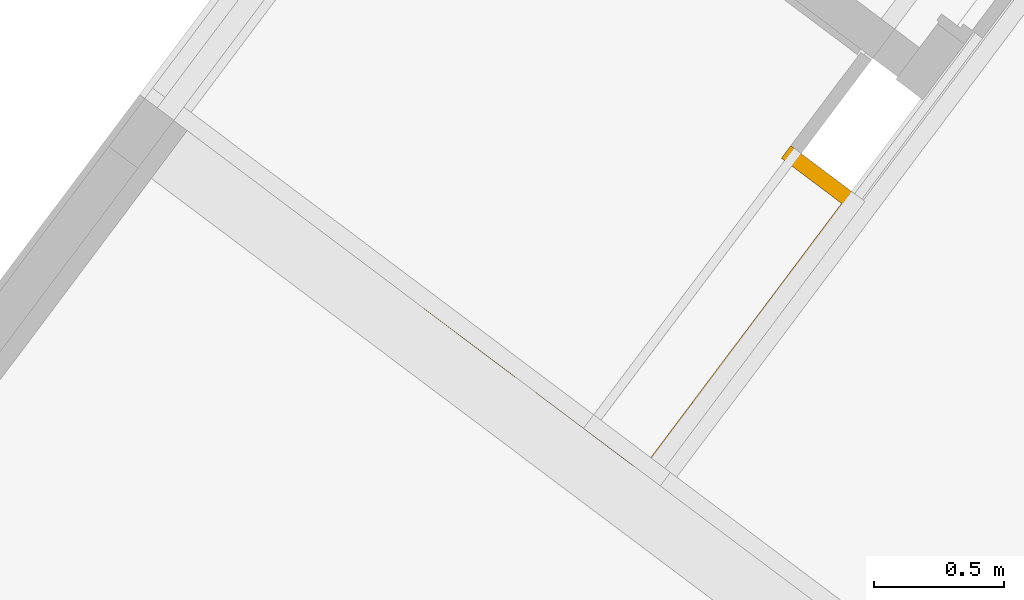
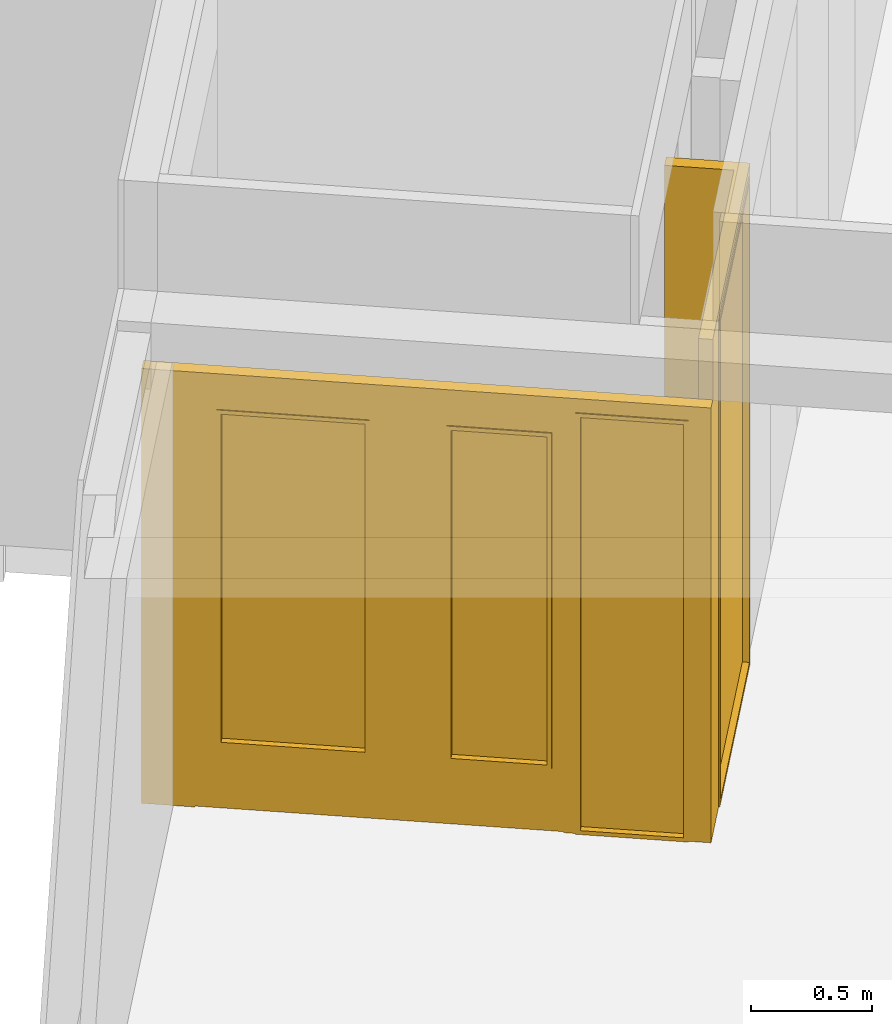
# One storey, part 222 of 243: 1 door.
"""IFC2X3 building model written with IfcOpenShell, lengths in metres."""

import ifcopenshell
import ifcopenshell.guid

model = None  # the IFC model being written
_history = None  # IfcOwnerHistory: only IFC2X3 demands one
_inside = {}  # id of a spatial element -> (the spatial element, [elements in it])
_under = {}  # id of a project, library or spatial element -> (it, [spatial elements below it])
_declared = {}  # id of a project -> (the project, [libraries it declares])
_typed = {}  # id of a type object -> (the type object, [elements of that type])
_made_of = {}  # id of a material, layer set ... -> (it, [elements and type objects made of it])


def new_model(schema):
    """Start an empty IFC model of exactly this schema.

    Asked for "IFC4X3", IfcOpenShell would pick the latest addendum, in which some entities
    have other attributes; the version numbers below select the first issue.
    IFC2X3 requires an IfcOwnerHistory on every rooted entity: one is made here for all.
    """
    global model, _history
    if schema == "IFC4X3":
        model = ifcopenshell.file(schema_version=(4, 3, 0, 0))
    else:
        model = ifcopenshell.file(schema=schema)
    _inside.clear()
    _under.clear()
    _declared.clear()
    _typed.clear()
    _made_of.clear()
    _history = None
    if model.schema == "IFC2X3":
        org = make("IfcOrganization", Name="unknown")
        user = make(
            "IfcPersonAndOrganization",
            ThePerson=make("IfcPerson", FamilyName="unknown"),
            TheOrganization=org,
        )
        app = make(
            "IfcApplication",
            ApplicationDeveloper=org,
            Version="unknown",
            ApplicationFullName="unknown",
            ApplicationIdentifier="unknown",
        )
        _history = make(
            "IfcOwnerHistory",
            OwningUser=user,
            OwningApplication=app,
            ChangeAction="ADDED",
            CreationDate=0,
        )
    return model


def make(cls, **values):
    """One entity of the class cls with the attributes given. An attribute that is None is left unset."""
    return model.create_entity(
        cls, **{name: value for name, value in values.items() if value is not None}
    )


def entity(cls, *values):
    """Any entity or typed value of the class cls, its attributes in the order of the schema. None: left unset."""
    e = model.create_entity(cls)
    for i, value in enumerate(values):
        if value is not None:
            e[i] = value
    return e


def rooted(cls, **values):
    """An entity with a GlobalId (a new one), such as an element, a storey or a relation."""
    return make(cls, GlobalId=ifcopenshell.guid.new(), OwnerHistory=_history, **values)


def si_unit(unit_type, name, prefix=None):
    """IfcSIUnit, for example si_unit("LENGTHUNIT", "METRE", prefix="MILLI")."""
    return make("IfcSIUnit", UnitType=unit_type, Prefix=prefix, Name=name)


def converted_unit(unit_type, name, factor, base, dimensions=None, offset=None):
    """IfcConversionBasedUnit, such as the inch: factor (a typed value) times the base unit."""
    return make(
        "IfcConversionBasedUnit"
        if offset is None
        else "IfcConversionBasedUnitWithOffset",
        ConversionOffset=offset,
        Dimensions=None
        if dimensions is None
        else entity("IfcDimensionalExponents", *dimensions),
        UnitType=unit_type,
        Name=name,
        ConversionFactor=make(
            "IfcMeasureWithUnit", ValueComponent=factor, UnitComponent=base
        ),
    )


def derived_unit(unit_type, elements):
    """IfcDerivedUnit: a product of units, each with its exponent."""
    return make(
        "IfcDerivedUnit",
        Elements=[
            make("IfcDerivedUnitElement", Unit=unit, Exponent=power)
            for unit, power in elements
        ],
        UnitType=unit_type,
    )


def assignment(units):
    """IfcUnitAssignment: the units of a project."""
    return None if units is None else make("IfcUnitAssignment", Units=units)


def point(xyz):
    """IfcCartesianPoint."""
    return None if xyz is None else make("IfcCartesianPoint", Coordinates=xyz)


def direction(xyz):
    """IfcDirection."""
    return None if xyz is None else make("IfcDirection", DirectionRatios=xyz)


def frame(location, z_axis=None, x_axis=None):
    """IfcAxis2Placement3D, a coordinate frame: its origin and axes. An axis left out is left unset."""
    return make(
        "IfcAxis2Placement3D",
        Location=point(location),
        Axis=direction(z_axis),
        RefDirection=direction(x_axis),
    )


def origin():
    """The frame at (0, 0, 0) with its axes left unset."""
    return frame((0.0, 0.0, 0.0))


def place(relative_to, where):
    """IfcLocalPlacement: puts the frame where relative to a parent placement (None: the world)."""
    return make(
        "IfcLocalPlacement", PlacementRelTo=relative_to, RelativePlacement=where
    )


def context(
    kind, dimensions, precision=None, world=None, true_north=None, identifier=None
):
    """IfcGeometricRepresentationContext, for example the 3D "Model" context."""
    return make(
        "IfcGeometricRepresentationContext",
        ContextIdentifier=identifier,
        ContextType=kind,
        CoordinateSpaceDimension=dimensions,
        Precision=precision,
        WorldCoordinateSystem=world,
        TrueNorth=true_north,
    )


def subcontext(parent, identifier, kind, view, scale=None):
    """IfcGeometricRepresentationSubContext, for example "Body" below "Model"."""
    return make(
        "IfcGeometricRepresentationSubContext",
        ContextIdentifier=identifier,
        ContextType=kind,
        ParentContext=parent,
        TargetScale=scale,
        TargetView=view,
    )


def project(units=None, contexts=None):
    """IfcProject with its units and contexts."""
    return rooted(
        "IfcProject",
        Name="project",
        RepresentationContexts=contexts,
        UnitsInContext=assignment(units),
    )


def spatial(cls, under=None, at=None, **own):
    """A site, building, storey or space (cls), placed at a placement, below another one or the project."""
    s = rooted(cls, ObjectPlacement=at, **own)
    if under is not None:
        _under.setdefault(under.id(), (under, []))[1].append(s)
    return s


def faces_of(points, faces, orient=None, outer=None):
    """IfcFace entities. A face is a list of loops; a loop is a list of indices into points, from 0.

    orient and outer hold one flag for each loop. By default every Orientation is true, the
    first loop of a face is its IfcFaceOuterBound and the others are IfcFaceBound.
    """
    made = []
    for i, loops in enumerate(faces):
        bounds = []
        for j, loop in enumerate(loops):
            is_outer = j == 0 if outer is None else outer[i][j]
            bounds.append(
                make(
                    "IfcFaceOuterBound" if is_outer else "IfcFaceBound",
                    Bound=make("IfcPolyLoop", Polygon=[points[k] for k in loop]),
                    Orientation=True if orient is None else orient[i][j],
                )
            )
        made.append(make("IfcFace", Bounds=bounds))
    return made


def faceted_brep(points, faces, orient=None, outer=None, voids=None):
    """IfcFacetedBrep: a solid bounded by flat faces; with voids (closed shells), ...WithVoids."""
    shared = [point(p) for p in points]
    hull = make("IfcClosedShell", CfsFaces=faces_of(shared, faces, orient, outer))
    if voids is None:
        return make("IfcFacetedBrep", Outer=hull)
    return make(
        "IfcFacetedBrepWithVoids",
        Outer=hull,
        Voids=[
            make(cls, CfsFaces=faces_of(shared, fs, o, b)) for cls, fs, o, b in voids
        ],
    )


def shape(context_of_items, identifier, shape_type, items):
    """IfcShapeRepresentation: the items that make up one representation, for example the "Body"."""
    return make(
        "IfcShapeRepresentation",
        ContextOfItems=context_of_items,
        RepresentationIdentifier=identifier,
        RepresentationType=shape_type,
        Items=items,
    )


def source(mapping_origin, context_of_items, identifier, shape_type, items):
    """IfcRepresentationMap: a shape defined once, which mapped items show again and again."""
    return make(
        "IfcRepresentationMap",
        MappingOrigin=mapping_origin,
        MappedRepresentation=shape(context_of_items, identifier, shape_type, items),
    )


def transform(
    local_origin,
    x_axis=None,
    y_axis=None,
    z_axis=None,
    scale=None,
    scale2=None,
    scale3=None,
    uniform=True,
):
    """IfcCartesianTransformationOperator3D, or its non-uniform kind. x_axis, y_axis, z_axis: its Axis1, 2, 3."""
    if uniform:
        return make(
            "IfcCartesianTransformationOperator3D",
            Axis1=direction(x_axis),
            Axis2=direction(y_axis),
            LocalOrigin=point(local_origin),
            Scale=scale,
            Axis3=direction(z_axis),
        )
    return make(
        "IfcCartesianTransformationOperator3DnonUniform",
        Axis1=direction(x_axis),
        Axis2=direction(y_axis),
        LocalOrigin=point(local_origin),
        Scale=scale,
        Axis3=direction(z_axis),
        Scale2=scale2,
        Scale3=scale3,
    )


def mapped(mapping_source, mapping_target):
    """IfcMappedItem: shows the shape of a source again, moved by a transform."""
    return make(
        "IfcMappedItem", MappingSource=mapping_source, MappingTarget=mapping_target
    )


def material(Name=None, Category=None):
    """IfcMaterial."""
    return make("IfcMaterial", Name=Name, Category=Category)


def material_list(materials):
    """IfcMaterialList."""
    return make("IfcMaterialList", Materials=materials)


def made_of(thing, what):
    """Note that an element or type object is made of a material, layer set ...; save() writes the relation."""
    if what is not None:
        _made_of.setdefault(what.id(), (what, []))[1].append(thing)
    return thing


def type_object(cls, material=None, **own):
    """A type object (cls), such as IfcWallType, which elements share."""
    return made_of(rooted(cls, **own), material)


def type_shapes(of_type, sources):
    """Give a type object the sources (RepresentationMaps) that its elements show as mapped items."""
    of_type.RepresentationMaps = sources


def element(
    cls,
    number,
    at=None,
    inside=None,
    cuts=None,
    type_object=None,
    material=None,
    context=None,
    identifier="Body",
    shape_type=None,
    held_by="IfcProductDefinitionShape",
    body=None,
    shapes=None,
    **own,
):
    """One element of the class cls, such as IfcWall. Its Tag is "e" and its number.

    at: its placement. inside: the storey or other place that contains it. cuts: it is an
    opening in that element (IfcRelVoidsElement). A single representation is given by context,
    identifier, shape_type and body (its items); several are given by shapes. held_by: the class
    of the entity that holds the representations. save() writes the other relations.
    """
    e = rooted(cls, Tag="e%d" % number, ObjectPlacement=at, **own)
    if body is not None:
        shapes = [shape(context, identifier, shape_type, body)]
    if shapes is not None:
        e.Representation = make(held_by, Representations=shapes)
    if inside is not None:
        _inside.setdefault(inside.id(), (inside, []))[1].append(e)
    if cuts is not None:
        rooted(
            "IfcRelVoidsElement", RelatingBuildingElement=cuts, RelatedOpeningElement=e
        )
    if type_object is not None:
        _typed.setdefault(type_object.id(), (type_object, []))[1].append(e)
    return made_of(e, material)


def aggregate(whole, parts):
    """IfcRelAggregates: a whole, such as a stair, and the parts it consists of."""
    return rooted("IfcRelAggregates", RelatingObject=whole, RelatedObjects=parts)


def save(model, path):
    """Write the relations noted so far, then the file.

    IfcRelAggregates (storeys below a building ...), IfcRelContainedInSpatialStructure (elements
    in a storey), IfcRelDefinesByType, IfcRelAssociatesMaterial and IfcRelDeclares: one each for
    every whole, place, type object, material and project.
    """
    for whole, parts in _under.values():
        aggregate(whole, parts)
    for where, things in _inside.values():
        rooted(
            "IfcRelContainedInSpatialStructure",
            RelatedElements=things,
            RelatingStructure=where,
        )
    for kind, things in _typed.values():
        rooted("IfcRelDefinesByType", RelatedObjects=things, RelatingType=kind)
    for what, things in _made_of.values():
        rooted("IfcRelAssociatesMaterial", RelatedObjects=things, RelatingMaterial=what)
    for by, libraries in _declared.values():
        rooted("IfcRelDeclares", RelatingContext=by, RelatedDefinitions=libraries)
    model.write(path)


model = new_model("IFC2X3")

# Units and contexts
model_context = context("Model", 3, precision=1e-05, world=origin(), true_north=direction((6.123031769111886e-17, 1.0)))
body_context = subcontext(model_context, "Body", "Model", "MODEL_VIEW")
ifc_project = project(units=[si_unit("LENGTHUNIT", "METRE"), si_unit("AREAUNIT", "SQUARE_METRE"), si_unit("VOLUMEUNIT", "CUBIC_METRE"), converted_unit("PLANEANGLEUNIT", "DEGREE", entity("IfcRatioMeasure", 0.017453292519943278), si_unit("PLANEANGLEUNIT", "RADIAN"), dimensions=[0, 0, 0, 0, 0, 0, 0]), si_unit("MASSUNIT", "GRAM", prefix="KILO"), derived_unit("MASSDENSITYUNIT", [(si_unit("MASSUNIT", "GRAM", prefix="KILO"), 1), (si_unit("LENGTHUNIT", "METRE"), -3)]), derived_unit("IONCONCENTRATIONUNIT", [(si_unit("MASSUNIT", "GRAM", prefix="KILO"), 1), (si_unit("LENGTHUNIT", "METRE"), -3)]), derived_unit("MOMENTOFINERTIAUNIT", [(si_unit("LENGTHUNIT", "METRE"), 4)]), si_unit("TIMEUNIT", "SECOND"), si_unit("FREQUENCYUNIT", "HERTZ"), si_unit("THERMODYNAMICTEMPERATUREUNIT", "DEGREE_CELSIUS"), derived_unit("THERMALTRANSMITTANCEUNIT", [(si_unit("MASSUNIT", "GRAM", prefix="KILO"), 1), (si_unit("THERMODYNAMICTEMPERATUREUNIT", "KELVIN"), -1), (si_unit("TIMEUNIT", "SECOND"), -3)]), derived_unit("THERMALCONDUCTANCEUNIT", [(si_unit("MASSUNIT", "GRAM", prefix="KILO"), 1), (si_unit("THERMODYNAMICTEMPERATUREUNIT", "KELVIN"), -1), (si_unit("TIMEUNIT", "SECOND"), -3), (si_unit("LENGTHUNIT", "METRE"), 1)]), derived_unit("VOLUMETRICFLOWRATEUNIT", [(si_unit("LENGTHUNIT", "METRE"), 3), (si_unit("TIMEUNIT", "SECOND"), -1)]), derived_unit("MASSFLOWRATEUNIT", [(si_unit("MASSUNIT", "GRAM", prefix="KILO"), 1), (si_unit("TIMEUNIT", "SECOND"), -1)]), derived_unit("ROTATIONALFREQUENCYUNIT", [(si_unit("TIMEUNIT", "SECOND"), -1)]), si_unit("ELECTRICCURRENTUNIT", "AMPERE"), si_unit("ELECTRICVOLTAGEUNIT", "VOLT"), si_unit("POWERUNIT", "WATT"), si_unit("FORCEUNIT", "NEWTON", prefix="KILO"), si_unit("ILLUMINANCEUNIT", "LUX"), si_unit("LUMINOUSFLUXUNIT", "LUMEN"), si_unit("LUMINOUSINTENSITYUNIT", "CANDELA"), derived_unit("USERDEFINED", [(si_unit("MASSUNIT", "GRAM", prefix="KILO"), -1), (si_unit("LENGTHUNIT", "METRE"), -2), (si_unit("TIMEUNIT", "SECOND"), 3), (si_unit("LUMINOUSFLUXUNIT", "LUMEN"), 1)]), derived_unit("USERDEFINED", [(si_unit("MASSUNIT", "GRAM", prefix="KILO"), 1), (si_unit("TIMEUNIT", "SECOND"), -3), (si_unit("LENGTHUNIT", "METRE"), 3), (si_unit("ELECTRICCURRENTUNIT", "AMPERE"), -2)]), derived_unit("SOUNDPOWERUNIT", [(si_unit("MASSUNIT", "GRAM", prefix="KILO"), 1), (si_unit("TIMEUNIT", "SECOND"), -3), (si_unit("LENGTHUNIT", "METRE"), 2)]), derived_unit("SOUNDPRESSUREUNIT", [(si_unit("MASSUNIT", "GRAM", prefix="KILO"), 1), (si_unit("LENGTHUNIT", "METRE"), -1), (si_unit("TIMEUNIT", "SECOND"), -2)]), derived_unit("LINEARVELOCITYUNIT", [(si_unit("LENGTHUNIT", "METRE"), 1), (si_unit("TIMEUNIT", "SECOND"), -1)]), si_unit("PRESSUREUNIT", "PASCAL"), derived_unit("USERDEFINED", [(si_unit("MASSUNIT", "GRAM", prefix="KILO"), 1), (si_unit("LENGTHUNIT", "METRE"), -2), (si_unit("TIMEUNIT", "SECOND"), -2)]), derived_unit("LINEARFORCEUNIT", [(si_unit("MASSUNIT", "GRAM", prefix="KILO"), 1), (si_unit("TIMEUNIT", "SECOND"), -2)]), derived_unit("PLANARFORCEUNIT", [(si_unit("MASSUNIT", "GRAM", prefix="KILO"), 1), (si_unit("LENGTHUNIT", "METRE"), -1), (si_unit("TIMEUNIT", "SECOND"), -2)]), derived_unit("SPECIFICHEATCAPACITYUNIT", [(si_unit("THERMODYNAMICTEMPERATUREUNIT", "KELVIN"), -1), (si_unit("LENGTHUNIT", "METRE"), 2), (si_unit("TIMEUNIT", "SECOND"), -2)]), derived_unit("HEATINGVALUEUNIT", [(si_unit("LENGTHUNIT", "METRE"), 2), (si_unit("TIMEUNIT", "SECOND"), -2)]), derived_unit("VAPORPERMEABILITYUNIT", [(si_unit("LENGTHUNIT", "METRE"), -1), (si_unit("TIMEUNIT", "SECOND"), 1)]), derived_unit("DYNAMICVISCOSITYUNIT", [(si_unit("MASSUNIT", "GRAM", prefix="KILO"), 1), (si_unit("TIMEUNIT", "SECOND"), -1), (si_unit("LENGTHUNIT", "METRE"), -1)]), derived_unit("THERMALEXPANSIONCOEFFICIENTUNIT", [(si_unit("THERMODYNAMICTEMPERATUREUNIT", "KELVIN"), -1)]), derived_unit("MODULUSOFELASTICITYUNIT", [(si_unit("MASSUNIT", "GRAM", prefix="KILO"), 1), (si_unit("LENGTHUNIT", "METRE"), -1), (si_unit("TIMEUNIT", "SECOND"), -2)]), derived_unit("ISOTHERMALMOISTURECAPACITYUNIT", [(si_unit("LENGTHUNIT", "METRE"), 3), (si_unit("MASSUNIT", "GRAM", prefix="KILO"), -1)]), derived_unit("MOISTUREDIFFUSIVITYUNIT", [(si_unit("TIMEUNIT", "SECOND"), -1), (si_unit("LENGTHUNIT", "METRE"), 2)])], contexts=[model_context])

# Site, building, storey
site_placement = place(None, frame((0.0, 0.0, 235.0), z_axis=(0.0, 0.0, 1.0), x_axis=(-0.7996477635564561, 0.6004693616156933, 0.0)))
site = spatial("IfcSite", under=ifc_project, at=site_placement, Name="Default", CompositionType="ELEMENT")
building_placement = place(site_placement, origin())
building = spatial("IfcBuilding", under=site, at=building_placement, CompositionType="ELEMENT")
storey_placement = place(building_placement, origin())
storey = spatial("IfcBuildingStorey", under=building, at=storey_placement, Name="P0- Escola", CompositionType="ELEMENT", Elevation=0.0)

# Door
ifc_material_1 = material(Name="_Fusta massisa- T1-  REV- PAV")
ifc_material_2 = material(Name="_Vidre")
ifc_material_list = material_list([ifc_material_1, ifc_material_2])
door_style = type_object("IfcDoorStyle", Name="FUS- Cancela- C3:FUS- Cancela- C3", ConstructionType="NOTDEFINED", OperationType="NOTDEFINED", ParameterTakesPrecedence=False, Sizeable=False, material=ifc_material_list)
shared_shape = source(origin(), body_context, "Body", "Brep", [
    faceted_brep([(-2.2199999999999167, -1.2849999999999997, 2.4449999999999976), (-2.21999999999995, -1.2849999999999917, 0.02000000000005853), (-2.2499999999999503, -1.2849999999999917, 0.020000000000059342), (-2.2499999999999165, -1.2849999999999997, 2.4449999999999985), (-2.249999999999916, -1.3050000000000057, 2.465000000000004), (-2.24999999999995, -1.304999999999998, 0.0), (-2.219999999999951, -1.3049999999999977, 0.0), (-2.2199999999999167, -1.3050000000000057, 2.465000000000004), (-2.219999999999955, -0.2800000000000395, 0.02000000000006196), (-2.2499999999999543, -0.2800000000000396, 0.020000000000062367), (-2.249999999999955, -0.26000000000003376, 0.0), (-2.2199999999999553, -0.26000000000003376, 0.0), (-2.219999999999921, -0.2800000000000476, 2.445000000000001), (-2.249999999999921, -0.2800000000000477, 2.445000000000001), (-2.249999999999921, -0.260000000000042, 2.4650000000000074), (-2.219999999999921, -0.2600000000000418, 2.4650000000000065)], [[[0, 1, 2, 3]], [[4, 5, 6, 7]], [[1, 8, 9, 2]], [[5, 10, 11, 6]], [[8, 12, 13, 9]], [[10, 14, 15, 11]], [[12, 0, 3, 13]], [[7, 6, 11, 15], [1, 0, 12, 8]], [[14, 4, 7, 15]], [[3, 2, 9, 13], [5, 4, 14, 10]]], outer=[[True], [True], [True], [True], [True], [True], [True], [True, False], [True], [False, True]]),
    faceted_brep([(-2.2199999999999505, -1.3049999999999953, 2.4650000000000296), (-2.1999999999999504, -1.3049999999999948, 2.4650000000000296), (-2.1999999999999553, -0.26000000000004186, 2.465000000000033), (-2.2199999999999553, -0.260000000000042, 2.465000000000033), (-2.2199999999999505, -1.304999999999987, 0.0), (-2.2199999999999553, -0.260000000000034, 0.0), (-2.1999999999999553, -0.26000000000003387, 0.0), (-2.1999999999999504, -1.304999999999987, 0.0)], [[[0, 1, 2, 3]], [[4, 5, 6, 7]], [[3, 5, 4, 0]], [[2, 6, 5, 3]], [[1, 7, 6, 2]], [[0, 4, 7, 1]]]),
    faceted_brep([(-2.184999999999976, -0.06000000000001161, 2.5050000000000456), (-2.1849999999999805, -0.06000000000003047, 0.0), (-2.2449999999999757, -0.06000000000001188, 0.0), (-2.244999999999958, -0.06000000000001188, 2.5050000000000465), (-2.2449999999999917, -0.30500000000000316, 0.0), (-2.2449999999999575, -0.3050000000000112, 2.4650000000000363), (-2.244999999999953, -1.3050000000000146, 2.4650000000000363), (-2.2449999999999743, -1.3050000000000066, 0.0), (-2.244999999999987, -1.3450000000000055, 0.0), (-2.2449999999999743, -1.3450000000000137, 2.5050000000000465), (-2.18499999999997, -1.2850000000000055, 0.0), (-1.8949999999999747, -1.2850000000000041, 0.0), (-1.8949999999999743, -1.345000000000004, 0.0), (-2.2009999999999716, -1.3050000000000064, 0.0), (-2.200999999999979, -0.30500000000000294, 0.0), (-2.1849999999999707, -1.2850000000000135, 2.5050000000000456), (-2.184999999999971, -1.2850000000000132, 2.445000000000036), (-2.184999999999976, -0.3250000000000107, 2.445000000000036), (-2.184999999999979, -0.32500000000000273, 0.020000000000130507), (-2.18499999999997, -1.2850000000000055, 0.02000000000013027), (-1.8949999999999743, -1.345000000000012, 2.5050000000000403), (-2.2009999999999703, -1.3050000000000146, 2.465000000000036), (-2.200999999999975, -0.30500000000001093, 2.465000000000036), (-2.200999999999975, -0.32500000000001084, 2.445000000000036), (-2.2009999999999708, -1.2850000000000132, 2.445000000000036), (-2.2010000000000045, -1.2850000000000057, 0.020000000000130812), (-2.201000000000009, -0.32500000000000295, 0.020000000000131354), (-1.8949999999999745, -1.2850000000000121, 2.504999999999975)], [[[0, 1, 2, 3]], [[4, 5, 6, 7, 8, 9, 3, 2]], [[4, 2, 1, 10, 11, 12, 8, 7, 13, 14]], [[0, 15, 16, 17, 18, 19, 10, 1]], [[9, 8, 12, 20]], [[7, 6, 21, 13]], [[22, 5, 4, 14]], [[22, 14, 13, 21], [23, 24, 25, 26]], [[23, 26, 18, 17]], [[25, 19, 18, 26]], [[11, 10, 19, 25, 24, 16, 15, 27]], [[20, 12, 11, 27]], [[3, 9, 20, 27, 15, 0]], [[5, 22, 21, 6]], [[17, 16, 24, 23]]]),
    faceted_brep([(-1.6999999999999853, -0.02400000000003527, 2.1100000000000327), (-1.6999999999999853, 0.005999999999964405, 2.110000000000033), (-1.699999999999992, 0.005999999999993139, 0.01999999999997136), (-1.699999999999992, -0.024000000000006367, 0.01999999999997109), (-1.6799999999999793, 0.005999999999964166, 2.1300000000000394), (-1.6799999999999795, -0.02400000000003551, 2.1300000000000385), (-1.6799999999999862, -0.024000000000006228, 0.0), (-1.6799999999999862, 0.005999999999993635, 0.0), (-2.130999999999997, 0.005999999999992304, 0.019999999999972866), (-2.130999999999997, -0.024000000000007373, 0.019999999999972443), (-2.1510000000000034, -0.024000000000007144, 0.0), (-2.1510000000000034, 0.0059999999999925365, 0.0), (-2.1309999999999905, 0.005999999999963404, 2.110000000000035), (-2.13099999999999, -0.024000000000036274, 2.110000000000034), (-2.1509999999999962, -0.0240000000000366, 2.1300000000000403), (-2.1509999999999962, 0.0059999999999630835, 2.1300000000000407)], [[[0, 1, 2, 3]], [[4, 5, 6, 7]], [[3, 2, 8, 9]], [[7, 6, 10, 11]], [[9, 8, 12, 13]], [[11, 10, 14, 15]], [[13, 12, 1, 0]], [[3, 9, 13, 0], [5, 14, 10, 6]], [[15, 14, 5, 4]], [[1, 12, 8, 2], [7, 11, 15, 4]]], outer=[[True], [True], [True], [True], [True], [True], [True], [False, True], [True], [False, True]]),
    faceted_brep([(-1.6799999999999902, -0.024000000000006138, 2.130000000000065), (-2.150999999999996, -0.024000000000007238, 2.1300000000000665), (-2.150999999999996, -0.04400000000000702, 2.1300000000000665), (-1.6799999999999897, -0.044000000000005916, 2.130000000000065), (-1.6799999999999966, -0.024000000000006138, 0.0), (-1.6799999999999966, -0.044000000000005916, 0.0), (-2.1510000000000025, -0.04400000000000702, 0.0), (-2.1510000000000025, -0.024000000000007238, 0.0)], [[[0, 1, 2, 3]], [[4, 5, 6, 7]], [[1, 0, 4, 7]], [[2, 1, 7, 6]], [[3, 2, 6, 5]], [[0, 3, 5, 4]]]),
    faceted_brep([(-1.1599999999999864, -0.024000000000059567, 2.0), (-1.1599999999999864, 0.005999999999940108, 2.0), (-1.1599999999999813, 0.005999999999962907, 0.33999999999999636), (-1.159999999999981, -0.024000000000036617, 0.3399999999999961), (-1.1399999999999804, 0.005999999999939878, 2.0200000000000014), (-1.1399999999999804, -0.0240000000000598, 2.0200000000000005), (-1.1399999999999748, -0.02400000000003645, 0.31999999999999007), (-1.1399999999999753, 0.005999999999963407, 0.3199999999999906), (-1.5599999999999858, 0.005999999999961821, 0.33999999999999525), (-1.5599999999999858, -0.02400000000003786, 0.3399999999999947), (-1.5799999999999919, -0.024000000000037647, 0.3199999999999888), (-1.5799999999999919, 0.005999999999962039, 0.31999999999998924), (-1.5599999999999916, 0.005999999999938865, 2.0), (-1.5599999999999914, -0.024000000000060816, 2.0), (-1.5799999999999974, -0.024000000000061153, 2.0199999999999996), (-1.5799999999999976, 0.005999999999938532, 2.0199999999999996)], [[[0, 1, 2, 3]], [[4, 5, 6, 7]], [[3, 2, 8, 9]], [[7, 6, 10, 11]], [[9, 8, 12, 13]], [[11, 10, 14, 15]], [[13, 12, 1, 0]], [[3, 9, 13, 0], [5, 14, 10, 6]], [[15, 14, 5, 4]], [[1, 12, 8, 2], [7, 11, 15, 4]]], outer=[[True], [True], [True], [True], [True], [True], [True], [False, True], [True], [False, True]]),
    faceted_brep([(-1.139999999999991, -0.02400000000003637, 2.020000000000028), (-1.5799999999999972, -0.024000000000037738, 2.0200000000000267), (-1.5799999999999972, -0.04400000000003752, 2.0200000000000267), (-1.139999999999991, -0.044000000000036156, 2.020000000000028), (-1.1399999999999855, -0.02400000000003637, 0.3199999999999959), (-1.1399999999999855, -0.044000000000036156, 0.3199999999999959), (-1.5799999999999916, -0.04400000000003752, 0.31999999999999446), (-1.5799999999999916, -0.024000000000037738, 0.31999999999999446)], [[[0, 1, 2, 3]], [[4, 5, 6, 7]], [[1, 0, 4, 7]], [[2, 1, 7, 6]], [[3, 2, 6, 5]], [[0, 3, 5, 4]]]),
    faceted_brep([(-1.0699999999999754, 0.0, 2.1299999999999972), (-1.6299999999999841, 0.0, 2.129999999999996), (-1.6300000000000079, -0.04400000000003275, 2.1299999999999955), (-1.0699999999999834, -0.044000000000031, 2.129999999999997), (-1.610000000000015, -0.04400000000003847, 2.109999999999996), (-1.6099999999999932, -0.04400000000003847, 0.004999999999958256), (-1.609999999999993, -0.060000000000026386, 0.00499999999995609), (-1.6100000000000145, -0.0599999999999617, 2.109999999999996), (-1.629999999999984, 0.0, 0.004999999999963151), (-1.0699999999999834, 0.0, 0.004999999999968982), (-1.0699999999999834, -0.0440000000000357, 0.004999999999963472), (-1.0499999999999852, -0.044000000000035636, 0.004999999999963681), (-1.0499999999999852, -0.060000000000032, 0.004999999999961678), (-1.6299999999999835, -0.04400000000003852, 0.004999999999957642), (-1.0699999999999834, -0.04400000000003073, 2.1099999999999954), (-1.1599999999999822, -0.059999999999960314, 2.0), (-1.1599999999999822, -0.05999999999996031, 0.33999999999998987), (-1.5599999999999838, -0.05999999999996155, 0.3399999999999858), (-1.5599999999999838, -0.05999999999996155, 2.0), (-1.0499999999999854, -0.060000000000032, 2.1100000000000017), (-1.5599999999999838, -0.04400000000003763, 2.0), (-1.5599999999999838, -0.044000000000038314, 0.3399999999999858), (-1.1599999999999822, -0.04400000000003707, 0.3399999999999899), (-1.1599999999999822, -0.044000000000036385, 2.0), (-1.0499999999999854, -0.044000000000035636, 2.1100000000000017), (-1.5799999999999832, -0.04400000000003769, 2.020000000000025), (-1.1399999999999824, -0.044000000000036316, 2.0200000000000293), (-1.1399999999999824, -0.044000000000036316, 0.3199999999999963), (-1.5799999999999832, -0.04400000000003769, 0.3199999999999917), (-1.5799999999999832, 0.0, 2.020000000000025), (-1.5799999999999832, 0.0, 0.3199999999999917), (-1.1399999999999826, 0.0, 0.3199999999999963), (-1.1399999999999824, 0.0, 2.0200000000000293)], [[[0, 1, 2, 3]], [[4, 5, 6, 7]], [[8, 9, 10, 11, 12, 6, 5, 13]], [[5, 4, 14, 3, 2, 13]], [[15, 16, 17, 18], [19, 7, 6, 12]], [[20, 18, 17, 21]], [[21, 17, 16, 22]], [[22, 16, 15, 23]], [[19, 12, 11, 24]], [[20, 21, 22, 23], [25, 26, 27, 28]], [[29, 25, 28, 30]], [[30, 28, 27, 31]], [[31, 27, 26, 32]], [[29, 30, 31, 32], [8, 1, 0, 9]], [[2, 1, 8, 13]], [[0, 3, 14, 10, 9]], [[24, 11, 10, 14]], [[14, 4, 7, 19, 24]], [[18, 20, 23, 15]], [[32, 26, 25, 29]]], outer=[[True], [True], [True], [True], [False, True], [True], [True], [True], [True], [False, True], [True], [True], [True], [False, True], [True], [True], [True], [True], [True], [True]]),
    faceted_brep([(-0.7999999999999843, -0.025000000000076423, 2.0), (-0.7999999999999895, -0.0250000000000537, 0.33999999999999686), (-0.7999999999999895, 0.00499999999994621, 0.33999999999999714), (-0.7999999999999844, 0.004999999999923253, 2.0), (-0.8199999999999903, 0.004999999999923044, 2.0200000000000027), (-0.8199999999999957, 0.004999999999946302, 0.3199999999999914), (-0.819999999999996, -0.025000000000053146, 0.3199999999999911), (-0.8199999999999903, -0.025000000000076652, 2.0200000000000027), (-0.19999999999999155, -0.025000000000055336, 0.3399999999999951), (-0.1999999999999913, 0.004999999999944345, 0.3399999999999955), (-0.17999999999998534, 0.004999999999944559, 0.3199999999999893), (-0.17999999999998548, -0.025000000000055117, 0.3199999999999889), (-0.19999999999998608, -0.02500000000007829, 2.0), (-0.19999999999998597, 0.0049999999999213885, 2.0), (-0.17999999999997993, 0.004999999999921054, 2.020000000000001), (-0.17999999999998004, -0.02500000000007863, 2.02)], [[[0, 1, 2, 3]], [[4, 5, 6, 7]], [[1, 8, 9, 2]], [[5, 10, 11, 6]], [[8, 12, 13, 9]], [[10, 14, 15, 11]], [[12, 0, 3, 13]], [[7, 6, 11, 15], [1, 0, 12, 8]], [[14, 4, 7, 15]], [[3, 2, 9, 13], [5, 4, 14, 10]]], outer=[[True], [True], [True], [True], [True], [True], [True], [True, False], [True], [False, True]]),
    faceted_brep([(-0.8199999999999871, -0.025000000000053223, 2.0200000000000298), (-0.8199999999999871, -0.04500000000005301, 2.0200000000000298), (-0.17999999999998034, -0.045000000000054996, 2.0200000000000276), (-0.17999999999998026, -0.02500000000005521, 2.0200000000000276), (-0.8199999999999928, -0.025000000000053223, 0.3199999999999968), (-0.1799999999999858, -0.02500000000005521, 0.3199999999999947), (-0.1799999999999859, -0.045000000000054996, 0.3199999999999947), (-0.8199999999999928, -0.04500000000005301, 0.3199999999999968)], [[[0, 1, 2, 3]], [[4, 5, 6, 7]], [[3, 5, 4, 0]], [[2, 6, 5, 3]], [[1, 7, 6, 2]], [[0, 4, 7, 1]]]),
    faceted_brep([(-0.08999999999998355, 0.0, 0.004999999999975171), (-0.08999999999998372, -0.04400000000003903, 0.004999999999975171), (-0.10599999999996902, -0.04400000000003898, 0.004999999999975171), (-0.10599999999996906, -0.060000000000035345, 0.004999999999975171), (-1.049999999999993, -0.06000000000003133, 0.004999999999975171), (-1.049999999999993, -0.04400000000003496, 0.004999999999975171), (-1.0699999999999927, -0.0440000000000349, 0.004999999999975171), (-1.0699999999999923, 0.0, 0.004999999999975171), (-0.08999999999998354, 0.0, 2.1300000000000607), (-0.0899999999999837, -0.044000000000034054, 2.1300000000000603), (-1.0699999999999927, -0.044000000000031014, 2.1300000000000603), (-1.049999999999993, -0.04400000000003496, 0.3200000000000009), (-1.049999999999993, -0.04400000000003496, 0.339999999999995), (-1.049999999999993, -0.04400000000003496, 2.0), (-1.049999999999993, -0.04400000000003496, 2.0200000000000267), (-1.049999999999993, -0.04400000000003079, 2.1099999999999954), (-0.10599999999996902, -0.04400000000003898, 2.1099999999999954), (-0.10599999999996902, -0.04400000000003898, 2.020000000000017), (-0.10599999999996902, -0.04400000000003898, 2.0), (-0.10599999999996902, -0.04400000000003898, 0.33999999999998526), (-0.10599999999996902, -0.04400000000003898, 0.3199999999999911), (-0.10599999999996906, -0.060000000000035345, 2.1099999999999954), (-0.19999999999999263, -0.060000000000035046, 0.3399999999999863), (-0.7999999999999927, -0.060000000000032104, 0.33999999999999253), (-0.7999999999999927, -0.060000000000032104, 2.0), (-0.19999999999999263, -0.060000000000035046, 2.0), (-1.049999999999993, -0.06000000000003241, 2.1099999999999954), (-1.069999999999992, 0.0, 2.1300000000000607), (-0.8199999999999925, 0.0, 2.020000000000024), (-0.8199999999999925, 0.0, 0.3199999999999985), (-0.179999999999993, 0.0, 0.3199999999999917), (-0.179999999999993, 0.0, 2.0200000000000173), (-0.19999999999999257, -0.0440000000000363, 0.3399999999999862), (-0.7999999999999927, -0.04400000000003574, 0.3399999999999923), (-0.7999999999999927, -0.04400000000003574, 2.0), (-0.19999999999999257, -0.0440000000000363, 2.0), (-0.8199999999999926, -0.04400000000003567, 2.020000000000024), (-0.8199999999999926, -0.04400000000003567, 0.31999999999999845), (-0.17999999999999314, -0.044000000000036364, 0.31999999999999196), (-0.17999999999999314, -0.044000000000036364, 2.0200000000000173)], [[[0, 1, 2, 3, 4, 5, 6, 7]], [[1, 0, 8, 9]], [[2, 1, 9, 10, 6, 5, 11, 12, 13, 14, 15, 16, 17, 18, 19, 20]], [[16, 21, 3, 2, 20, 19, 18, 17]], [[22, 23, 24, 25], [21, 26, 4, 3]], [[4, 26, 15, 14, 13, 12, 11, 5]], [[7, 6, 10, 27]], [[28, 29, 30, 31], [27, 8, 0, 7]], [[23, 22, 32, 33]], [[24, 23, 33, 34]], [[22, 25, 35, 32]], [[29, 28, 36, 37]], [[30, 29, 37, 38]], [[31, 30, 38, 39]], [[39, 38, 37, 36], [35, 34, 33, 32]], [[21, 16, 15, 26]], [[25, 24, 34, 35]], [[27, 10, 9, 8]], [[28, 31, 39, 36]]], outer=[[True], [True], [True], [True], [False, True], [True], [True], [False, True], [True], [True], [True], [True], [True], [True], [True, False], [True], [True], [True], [True]]),
    faceted_brep([(-2.2449999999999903, -0.06000000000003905, 2.2000000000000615), (-2.2449999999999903, 0.0, 2.2000000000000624), (-2.244999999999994, 0.0, 0.0), (-2.2449999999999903, -0.06000000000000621, 0.0), (-1.629999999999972, 0.0, 0.0), (-1.6799999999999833, 0.0, 0.0), (-1.6799999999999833, 0.0, 2.1299999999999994), (-2.1509999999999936, 0.0, 2.1299999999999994), (-2.1509999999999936, 0.0, 0.0), (0.132000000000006, 0.0, 2.200000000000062), (0.13200000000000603, 0.0, 0.0), (-0.08999999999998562, 0.0, 0.0), (-0.08999999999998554, 0.0, 2.1299999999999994), (-1.629999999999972, 0.0, 2.1299999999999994), (-1.629999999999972, -0.04400000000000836, 0.0), (-1.609999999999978, -0.04400000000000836, 0.0), (-1.609999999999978, -0.06000000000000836, 0.0), (-2.1509999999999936, -0.044000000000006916, 0.0), (-1.6799999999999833, -0.04400000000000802, 0.0), (-1.609999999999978, -0.060000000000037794, 2.1099999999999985), (-0.10599999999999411, -0.060000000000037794, 2.1099999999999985), (-0.10599999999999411, -0.06000000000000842, 0.0), (0.132000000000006, -0.06000000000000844, 0.0), (0.132000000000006, -0.06000000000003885, 2.2000000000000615), (-1.6999999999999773, -0.060000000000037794, 2.109999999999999), (-1.6999999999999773, -0.06000000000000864, 0.01999999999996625), (-2.1309999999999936, -0.06000000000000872, 0.019999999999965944), (-2.1309999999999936, -0.060000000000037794, 2.1099999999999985), (-1.609999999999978, -0.0440000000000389, 2.109999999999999), (-0.10599999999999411, -0.04400000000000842, 0.0), (-0.10599999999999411, -0.0440000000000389, 2.109999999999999), (-0.08999999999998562, -0.04400000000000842, 0.0), (-1.6999999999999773, -0.0440000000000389, 2.1099999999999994), (-1.6999999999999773, -0.04400000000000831, 0.019999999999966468), (-2.1309999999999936, -0.04400000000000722, 0.019999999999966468), (-2.1309999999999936, -0.0440000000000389, 2.109999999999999), (-1.629999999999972, -0.044000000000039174, 2.1299999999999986), (-0.08999999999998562, -0.044000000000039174, 2.1299999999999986), (-1.6799999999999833, -0.044000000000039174, 2.1299999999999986), (-2.1509999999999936, -0.044000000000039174, 2.1299999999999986)], [[[0, 1, 2, 3]], [[4, 5, 6, 7, 8, 2, 1, 9, 10, 11, 12, 13]], [[4, 14, 15, 16, 3, 2, 8, 17, 18, 5]], [[16, 19, 20, 21, 22, 23, 0, 3], [24, 25, 26, 27]], [[16, 15, 28, 19]], [[29, 21, 20, 30]], [[10, 22, 21, 29, 31, 11]], [[22, 10, 9, 23]], [[24, 32, 33, 25]], [[26, 25, 33, 34]], [[35, 27, 26, 34]], [[15, 14, 36, 37, 31, 29, 30, 28]], [[14, 4, 13, 36]], [[11, 31, 37, 12]], [[5, 18, 38, 6]], [[39, 17, 8, 7]], [[19, 28, 30, 20]], [[36, 13, 12, 37]], [[1, 0, 23, 9]], [[6, 38, 39, 7]], [[32, 24, 27, 35]], [[39, 38, 18, 17], [35, 34, 33, 32]]]),
])
type_shapes(door_style, [shared_shape])
door_placement = place(storey_placement, frame((17.89013467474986, -18.3451917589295, 0.0)))
element("IfcDoor", 1, at=door_placement, inside=storey, type_object=door_style, material=ifc_material_list, Name="FUS- Cancela- C3:FUS- Cancela- C3", ObjectType="FUS- Cancela- C3:FUS- Cancela- C3", OverallHeight=2.505000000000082, OverallWidth=2.381999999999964, context=body_context, shape_type="MappedRepresentation", body=[
    mapped(shared_shape, transform((0.0, 0.0, 0.0), scale=1.0)),
])

save(model, "model.ifc")
